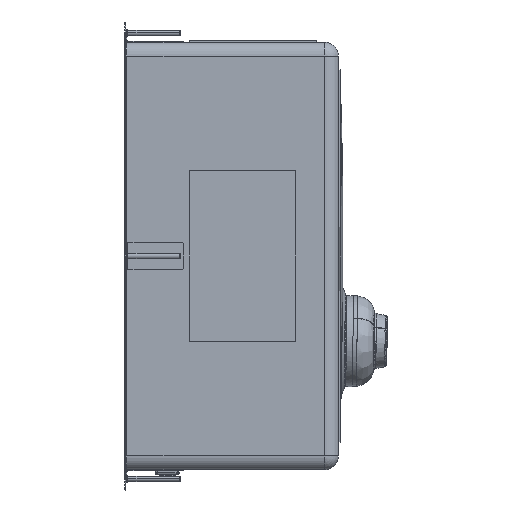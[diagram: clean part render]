
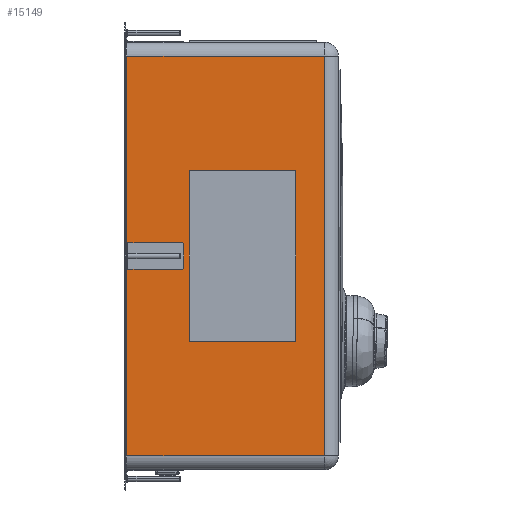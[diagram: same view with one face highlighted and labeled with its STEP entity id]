
A CAD part, left-side view. The second image highlights one B-rep face of the part: STEP entity #15149.
In plain terms, the highlighted planar face has unit normal (-1, 0, 0).
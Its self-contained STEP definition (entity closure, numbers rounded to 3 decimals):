
#2030=DIRECTION('',(0.,1.,0.));
#2031=VECTOR('',#2030,186.);
#2032=CARTESIAN_POINT('',(-351.,-187.,-188.));
#2033=LINE('',#2032,#2031);
#2042=DIRECTION('',(0.,-1.,0.));
#2043=VECTOR('',#2042,186.);
#2044=CARTESIAN_POINT('',(-351.,-1.,188.));
#2045=LINE('',#2044,#2043);
#8482=DIRECTION('',(0.,0.,1.));
#8483=VECTOR('',#8482,376.);
#8484=CARTESIAN_POINT('',(-351.,-1.,-188.));
#8485=LINE('',#8484,#8483);
#8543=DIRECTION('',(0.,0.,-1.));
#8544=VECTOR('',#8543,376.);
#8545=CARTESIAN_POINT('',(-351.,-187.,188.));
#8546=LINE('',#8545,#8544);
#9078=CARTESIAN_POINT('',(-351.,-187.,188.));
#9080=VERTEX_POINT('',#9078);
#9118=CARTESIAN_POINT('',(-351.,-187.,-188.));
#9120=VERTEX_POINT('',#9118);
#9652=CARTESIAN_POINT('',(-351.,-1.,-188.));
#9653=VERTEX_POINT('',#9652);
#9718=CARTESIAN_POINT('',(-351.,-1.,188.));
#9719=VERTEX_POINT('',#9718);
#15135=CARTESIAN_POINT('',(-351.,-200.,-188.));
#15136=DIRECTION('',(1.,0.,0.));
#15137=DIRECTION('',(0.,0.,-1.));
#15138=AXIS2_PLACEMENT_3D('',#15135,#15136,#15137);
#15139=PLANE('',#15138);
#15141=ORIENTED_EDGE('',*,*,#15140,.T.);
#15143=ORIENTED_EDGE('',*,*,#15142,.T.);
#15144=ORIENTED_EDGE('',*,*,#15125,.T.);
#15146=ORIENTED_EDGE('',*,*,#15145,.T.);
#15147=EDGE_LOOP('',(#15141,#15143,#15144,#15146));
#15148=FACE_OUTER_BOUND('',#15147,.F.);
#15125=EDGE_CURVE('',#9120,#9653,#2033,.T.);
#15140=EDGE_CURVE('',#9719,#9080,#2045,.T.);
#15142=EDGE_CURVE('',#9080,#9120,#8546,.T.);
#15145=EDGE_CURVE('',#9653,#9719,#8485,.T.);
#15149=ADVANCED_FACE('',(#15148),#15139,.F.);
